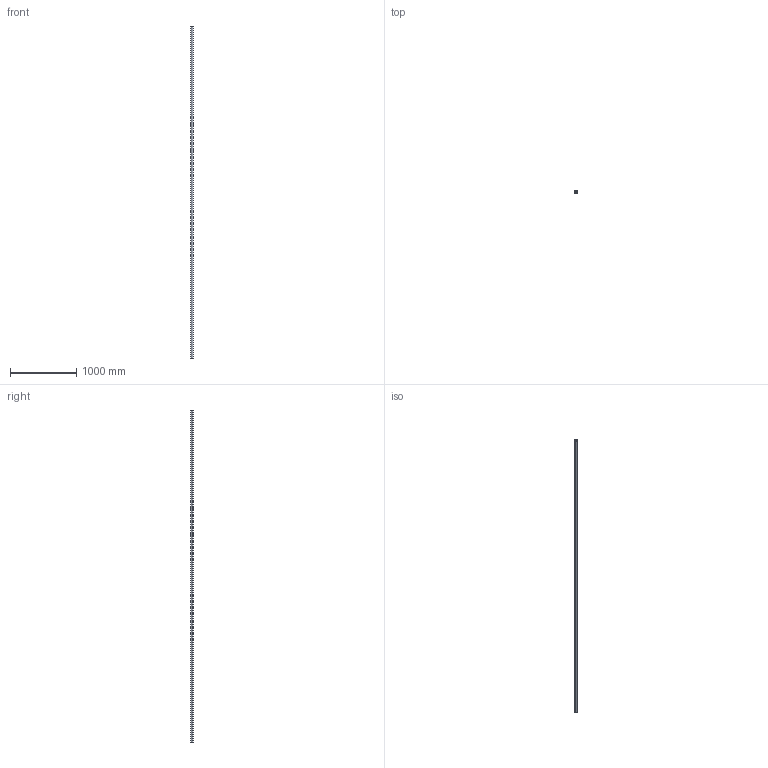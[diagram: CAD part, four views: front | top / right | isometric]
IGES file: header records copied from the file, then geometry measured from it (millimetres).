
Start section: SolidWorks IGES file using analytic representation for surfaces
Global section: file name: C:\Users\IanO\Desktop\L1771_v2\L1771.40_v2\L1771.40_v2_20230705_IGES\L1771.40-5000.igs; native system: SolidWorks 2019; preprocessor: SolidWorks 2019; author: IanO; date: 230705.162851; units: millimetre
Bounding box: 40 x 40 x 5000 mm (x, y, z)
Surface area: 1069423.3 mm2 (no closed solid volume)
Topology: 0 solids, 0 shells, 6 faces, 272 edges, 272 vertices
Faces by surface type: revolution 4, bspline 2
